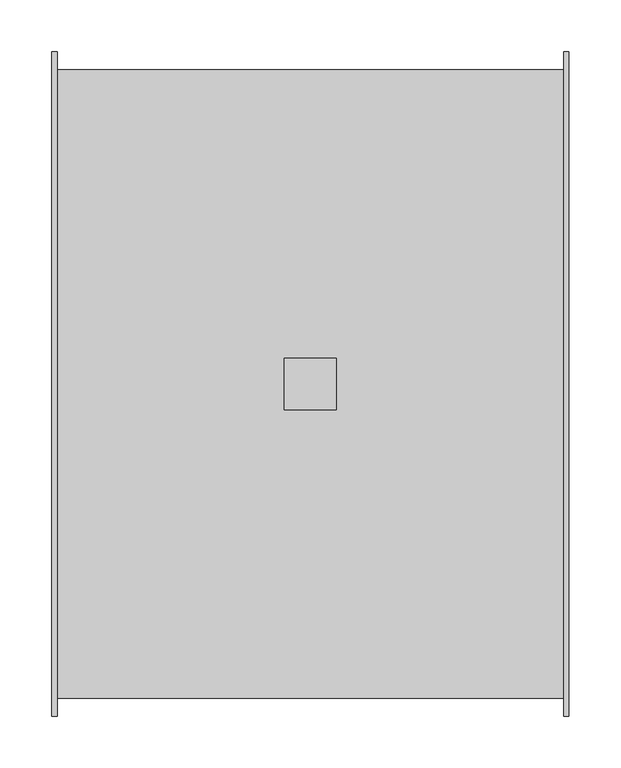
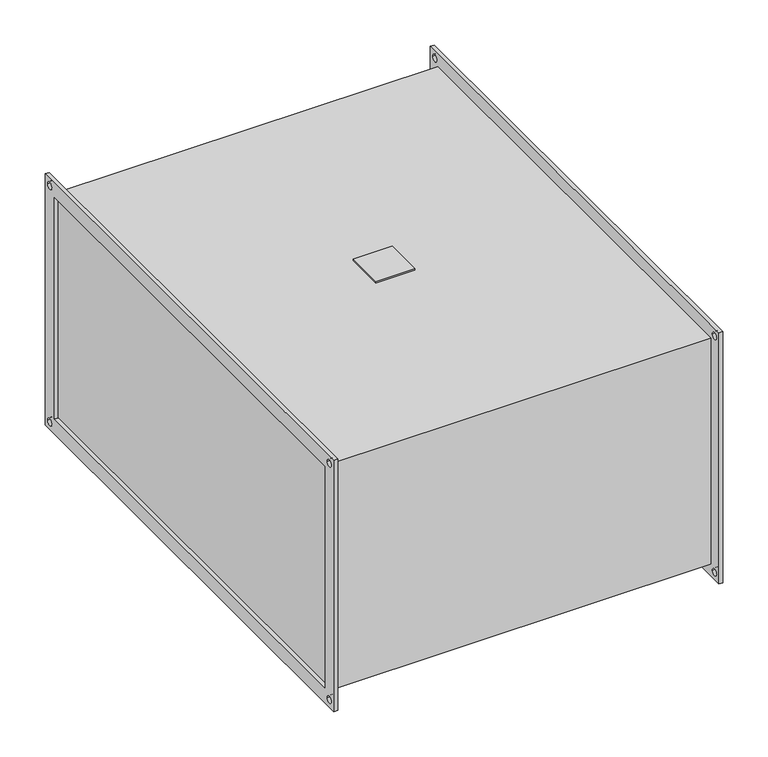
"""IFC4 building model written with IfcOpenShell, lengths in millimetres: proxy geometry, KORF_Вентилятор_WNP : WNP 60-30/25R.2D."""

from ifc_helpers import new_model, si_unit, point, frame, frame_2d, origin, place, context, project, spatial, polyline, circle_curve, trimmed, segment, composite_curve, outline, extrude, source, transform, mapped, element, save


def mechanical_equipment_ed128b01(model_context):
    return source(origin(), model_context, "Body", "SweptSolid", [
        extrude(outline(polyline([(224.0, -25.0), (224.0, 25.0), (274.0, 25.0), (274.0, -25.0), (224.0, -25.0)])), frame((0.0, 0.0, 153.0), z_axis=(0.0, 0.0, 1.0), x_axis=(1.0, 0.0, 0.0)), (0.0, 0.0, 1.0), 2.0),
        extrude(outline(polyline([(-320.0, 170.0), (320.0, 170.0), (320.0, -170.0), (-320.0, -170.0), (-320.0, 170.0)]), holes=[polyline([(-300.0, 150.0), (-300.0, -150.0), (300.0, -150.0), (300.0, 150.0), (-300.0, 150.0)]), composite_curve([segment(trimmed(circle_curve(frame_2d((310.0, 160.0)), 4.5), [point((305.5, 160.0))], [point((314.5, 160.0))], True, "CARTESIAN"), True, "CONTINUOUS"), segment(trimmed(circle_curve(frame_2d((310.0, 160.0)), 4.5), [point((314.5, 160.0))], [point((305.5, 160.0))], True, "CARTESIAN"), True, "CONTINUOUS")], self_intersect=False), composite_curve([segment(trimmed(circle_curve(frame_2d((-310.0, 160.0)), 4.5), [point((-314.5, 160.0))], [point((-305.5, 160.0))], True, "CARTESIAN"), True, "CONTINUOUS"), segment(trimmed(circle_curve(frame_2d((-310.0, 160.0)), 4.5), [point((-305.5, 160.0))], [point((-314.5, 160.0))], True, "CARTESIAN"), True, "CONTINUOUS")], self_intersect=False), composite_curve([segment(trimmed(circle_curve(frame_2d((-310.0, -160.0)), 4.5), [point((-314.5, -160.0))], [point((-305.5, -160.0))], True, "CARTESIAN"), True, "CONTINUOUS"), segment(trimmed(circle_curve(frame_2d((-310.0, -160.0)), 4.5), [point((-305.5, -160.0))], [point((-314.5, -160.0))], True, "CARTESIAN"), True, "CONTINUOUS")], self_intersect=False), composite_curve([segment(trimmed(circle_curve(frame_2d((310.0, -160.0)), 4.5), [point((305.5, -160.0))], [point((314.5, -160.0))], True, "CARTESIAN"), True, "CONTINUOUS"), segment(trimmed(circle_curve(frame_2d((310.0, -160.0)), 4.5), [point((314.5, -160.0))], [point((305.5, -160.0))], True, "CARTESIAN"), True, "CONTINUOUS")], self_intersect=False)]), frame((493.0, 0.0, 0.0), z_axis=(1.0, 0.0, 0.0), x_axis=(0.0, 1.0, 0.0)), (0.0, 0.0, 1.0), 5.0),
        extrude(outline(polyline([(-320.0, 170.0), (320.0, 170.0), (320.0, -170.0), (-320.0, -170.0), (-320.0, 170.0)]), holes=[polyline([(-300.0, 150.0), (-300.0, -150.0), (300.0, -150.0), (300.0, 150.0), (-300.0, 150.0)]), composite_curve([segment(trimmed(circle_curve(frame_2d((310.0, 160.0)), 4.5), [point((305.5, 160.0))], [point((314.5, 160.0))], True, "CARTESIAN"), True, "CONTINUOUS"), segment(trimmed(circle_curve(frame_2d((310.0, 160.0)), 4.5), [point((314.5, 160.0))], [point((305.5, 160.0))], True, "CARTESIAN"), True, "CONTINUOUS")], self_intersect=False), composite_curve([segment(trimmed(circle_curve(frame_2d((-310.0, 160.0)), 4.5), [point((-314.5, 160.0))], [point((-305.5, 160.0))], True, "CARTESIAN"), True, "CONTINUOUS"), segment(trimmed(circle_curve(frame_2d((-310.0, 160.0)), 4.5), [point((-305.5, 160.0))], [point((-314.5, 160.0))], True, "CARTESIAN"), True, "CONTINUOUS")], self_intersect=False), composite_curve([segment(trimmed(circle_curve(frame_2d((-310.0, -160.0)), 4.5), [point((-314.5, -160.0))], [point((-305.5, -160.0))], True, "CARTESIAN"), True, "CONTINUOUS"), segment(trimmed(circle_curve(frame_2d((-310.0, -160.0)), 4.5), [point((-305.5, -160.0))], [point((-314.5, -160.0))], True, "CARTESIAN"), True, "CONTINUOUS")], self_intersect=False), composite_curve([segment(trimmed(circle_curve(frame_2d((310.0, -160.0)), 4.5), [point((305.5, -160.0))], [point((314.5, -160.0))], True, "CARTESIAN"), True, "CONTINUOUS"), segment(trimmed(circle_curve(frame_2d((310.0, -160.0)), 4.5), [point((314.5, -160.0))], [point((305.5, -160.0))], True, "CARTESIAN"), True, "CONTINUOUS")], self_intersect=False)]), frame((0.0, 0.0, 0.0), z_axis=(1.0, 0.0, 0.0), x_axis=(0.0, 1.0, 0.0)), (0.0, 0.0, 1.0), 5.0),
        extrude(outline(polyline([(493.0, 303.0), (493.0, -303.0), (5.0, -303.0), (5.0, 303.0), (493.0, 303.0)])), frame((0.0, 0.0, -153.0), z_axis=(0.0, 0.0, 1.0), x_axis=(1.0, 0.0, 0.0)), (0.0, 0.0, 1.0), 306.0),
    ])


if __name__ == "__main__":
    model = new_model("IFC4")
    model_context = context("Model", 3, world=origin())
    ifc_project = project(units=[si_unit("LENGTHUNIT", "METRE", prefix="MILLI")], contexts=[model_context])
    site = spatial("IfcSite", under=ifc_project)
    building = spatial("IfcBuilding", under=site)
    placement = place(None, origin())
    mechanical_equipment_shape = mechanical_equipment_ed128b01(model_context)
    element("IfcBuildingElementProxy", 1, Name="KORF_Вентилятор_WNP : WNP 60-30/25R.2D", ObjectType="KORF_Вентилятор_WNP : WNP 60-30/25R.2D", at=placement, inside=building, context=model_context, shape_type="MappedRepresentation", body=[
        mapped(mechanical_equipment_shape, transform((0.0, 0.0, 0.0), x_axis=(1.0, 0.0, 0.0), y_axis=(0.0, 1.0, 0.0), z_axis=(0.0, 0.0, 1.0))),
    ])
    save(model, "model.ifc")
